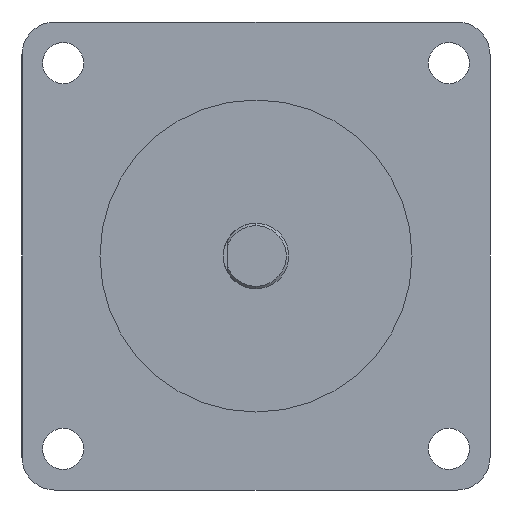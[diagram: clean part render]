
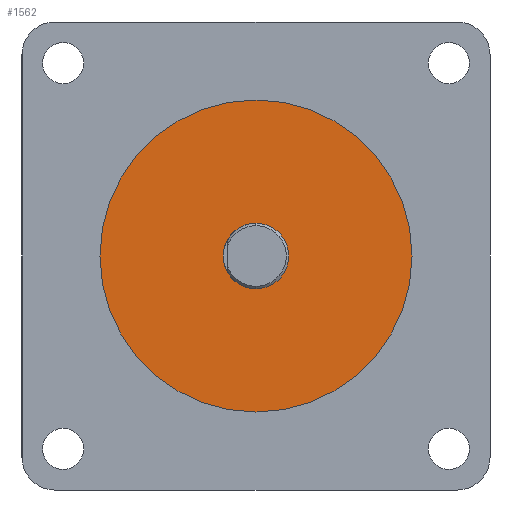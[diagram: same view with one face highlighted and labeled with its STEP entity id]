
A CAD part, left-side view. The second image highlights one B-rep face of the part: STEP entity #1562.
In plain terms, the highlighted planar face has unit normal (-1, 0, 0).
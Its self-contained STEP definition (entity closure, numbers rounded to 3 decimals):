
#45 = CARTESIAN_POINT ( 'NONE',  ( -1.5, 0., 0. ) ) ;
#69 = VERTEX_POINT ( 'NONE', #351 ) ;
#193 = CARTESIAN_POINT ( 'NONE',  ( -1.5, 0., 0. ) ) ;
#216 = DIRECTION ( 'NONE',  ( -1., 0., 0. ) ) ;
#250 = AXIS2_PLACEMENT_3D ( 'NONE', #566, #216, #3332 ) ;
#281 = FACE_OUTER_BOUND ( 'NONE', #1139, .T. ) ;
#322 = VERTEX_POINT ( 'NONE', #3334 ) ;
#344 = FACE_BOUND ( 'NONE', #1844, .T. ) ;
#351 = CARTESIAN_POINT ( 'NONE',  ( -1.5, 0., 19.05 ) ) ;
#374 = ORIENTED_EDGE ( 'NONE', *, *, #3270, .F. ) ;
#383 = AXIS2_PLACEMENT_3D ( 'NONE', #1697, #1335, #961 ) ;
#566 = CARTESIAN_POINT ( 'NONE',  ( -1.5, 0., 0. ) ) ;
#643 = EDGE_CURVE ( 'NONE', #2458, #322, #2739, .T. ) ;
#701 = CIRCLE ( 'NONE', #1741, 19.05 ) ;
#767 = VERTEX_POINT ( 'NONE', #2554 ) ;
#788 = AXIS2_PLACEMENT_3D ( 'NONE', #2533, #2178, #1817 ) ;
#921 = PLANE ( 'NONE',  #250 ) ;
#961 = DIRECTION ( 'NONE',  ( 0., 0., 1. ) ) ;
#970 = CARTESIAN_POINT ( 'NONE',  ( -1.5, 0., -4. ) ) ;
#991 = CIRCLE ( 'NONE', #383, 4. ) ;
#1139 = EDGE_LOOP ( 'NONE', ( #2144, #1691 ) ) ;
#1214 = ORIENTED_EDGE ( 'NONE', *, *, #643, .F. ) ;
#1335 = DIRECTION ( 'NONE',  ( -1., 0., 0. ) ) ;
#1517 = EDGE_CURVE ( 'NONE', #767, #69, #3101, .T. ) ;
#1536 = DIRECTION ( 'NONE',  ( 0., 0., 1. ) ) ;
#1562 = ADVANCED_FACE ( 'NONE', ( #281, #344 ), #921, .T. ) ;
#1673 = AXIS2_PLACEMENT_3D ( 'NONE', #193, #1904, #1536 ) ;
#1691 = ORIENTED_EDGE ( 'NONE', *, *, #1951, .T. ) ;
#1697 = CARTESIAN_POINT ( 'NONE',  ( -1.5, 0., 0. ) ) ;
#1741 = AXIS2_PLACEMENT_3D ( 'NONE', #45, #3163, #2819 ) ;
#1817 = DIRECTION ( 'NONE',  ( 0., 0., 1. ) ) ;
#1844 = EDGE_LOOP ( 'NONE', ( #1214, #374 ) ) ;
#1904 = DIRECTION ( 'NONE',  ( -1., 0., 0. ) ) ;
#1951 = EDGE_CURVE ( 'NONE', #69, #767, #701, .T. ) ;
#2144 = ORIENTED_EDGE ( 'NONE', *, *, #1517, .T. ) ;
#2178 = DIRECTION ( 'NONE',  ( -1., 0., 0. ) ) ;
#2458 = VERTEX_POINT ( 'NONE', #970 ) ;
#2533 = CARTESIAN_POINT ( 'NONE',  ( -1.5, 0., 0. ) ) ;
#2554 = CARTESIAN_POINT ( 'NONE',  ( -1.5, 0., -19.05 ) ) ;
#2739 = CIRCLE ( 'NONE', #1673, 4. ) ;
#2819 = DIRECTION ( 'NONE',  ( 0., 0., 1. ) ) ;
#3101 = CIRCLE ( 'NONE', #788, 19.05 ) ;
#3163 = DIRECTION ( 'NONE',  ( -1., 0., 0. ) ) ;
#3270 = EDGE_CURVE ( 'NONE', #322, #2458, #991, .T. ) ;
#3332 = DIRECTION ( 'NONE',  ( 0., 0., 1. ) ) ;
#3334 = CARTESIAN_POINT ( 'NONE',  ( -1.5, 0., 4. ) ) ;
